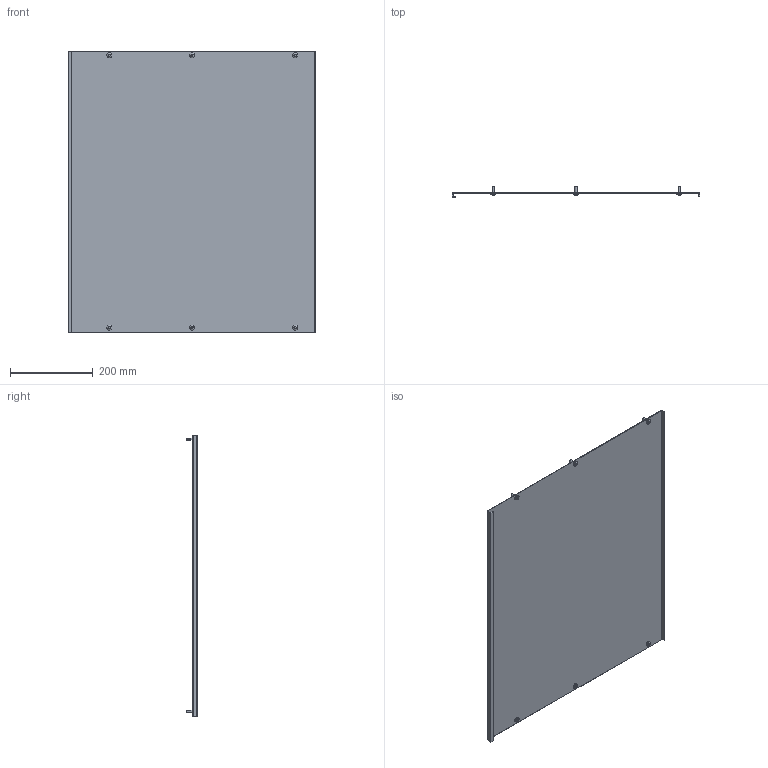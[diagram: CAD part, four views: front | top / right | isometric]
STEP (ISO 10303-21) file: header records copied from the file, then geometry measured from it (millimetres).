
FILE_DESCRIPTION (( 'STEP AP214' ), '1' );
FILE_NAME ('FO-00-PVS-060-080 Ïëàñòðîí ãëóõîé âíóòðåííèé 600õ800.STEP', '2025-09-30T07:41:52', ( '' ), ( '' ), 'SwSTEP 2.0', 'SolidWorks 2023', '' );
FILE_SCHEMA (( 'AUTOMOTIVE_DESIGN' ));
Length unit declared in the file: millimetre
Products named in the file (3): FO-00-PVS-060-080 Пластрон глухой внутренний 600х800; Винт M6x16 060-080 IEK
Assembly tree (3 placements, depth 2):
  FO-00-PVS-060-080 Пластрон глухой внутренний 600х800
    FO-00-PVS-060-080 Пластрон глухой внутренний 600х800
    Винт M6x16 060-080 IEK  x2
Bounding box: 598 x 27 x 679 mm (x, y, z)
Volume: 639810.8 mm3; surface area: 854874.7 mm2
Topology: 7 solids, 7 shells, 214 faces, 558 edges, 364 vertices
Faces by surface type: cylinder 132, plane 52, cone 18, bspline 12
Entity records: 4464 total; most frequent: CARTESIAN_POINT 1022, ORIENTED_EDGE 708, DIRECTION 692, EDGE_CURVE 354, AXIS2_PLACEMENT_3D 256, VERTEX_POINT 232, LINE 180, VECTOR 180
